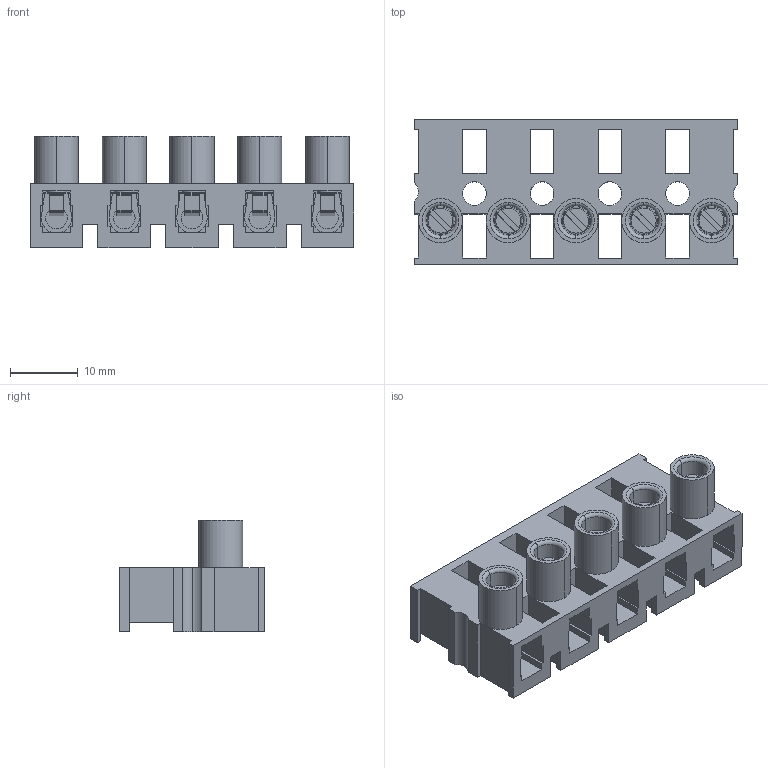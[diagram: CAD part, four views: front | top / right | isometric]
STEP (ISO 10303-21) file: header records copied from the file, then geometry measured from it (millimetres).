
FILE_DESCRIPTION(('CATIA V5 STEP Exchange'),'2;1');
FILE_NAME('C:\Users\mcr\Documents\weco\6_STEPfertig\Katalog_7\Steckverbinderklemmleiste_321-B\321-B-DS_5_35821006.stp','2016-09-23T08:48:27+00:00',('none'),('none'),'CATIA Version 5 Release 20 SP 5 (IN-10)','CATIA V5 STEP AP214','none');
FILE_SCHEMA(('AUTOMOTIVE_DESIGN { 1 0 10303 214 1 1 1 1 }'));
Length unit declared in the file: millimetre
Products named in the file (1): 321-B-DS
Bounding box: 47.8 x 21.5 x 16.5 mm (x, y, z)
Volume: 6379.5 mm3; surface area: 7751.1 mm2
Topology: 1 solids, 1 shells, 650 faces, 1880 edges, 1246 vertices
Faces by surface type: plane 504, cylinder 96, torus 30, cone 20
Entity records: 25103 total; most frequent: CARTESIAN_POINT 4296, ORIENTED_EDGE 3760, DIRECTION 2777, EDGE_CURVE 1880, VECTOR 1477, LINE 1477, VERTEX_POINT 1246, AXIS2_PLACEMENT_3D 815
